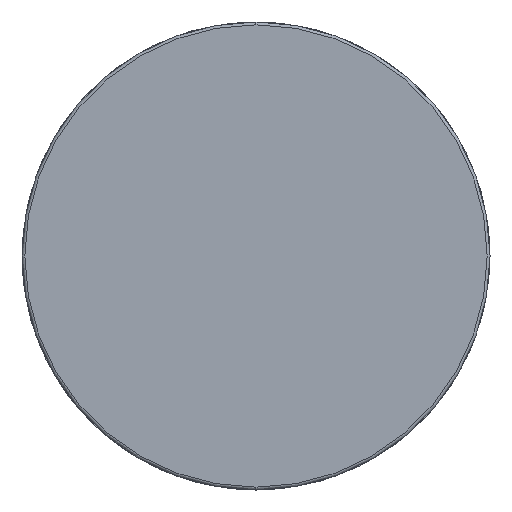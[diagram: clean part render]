
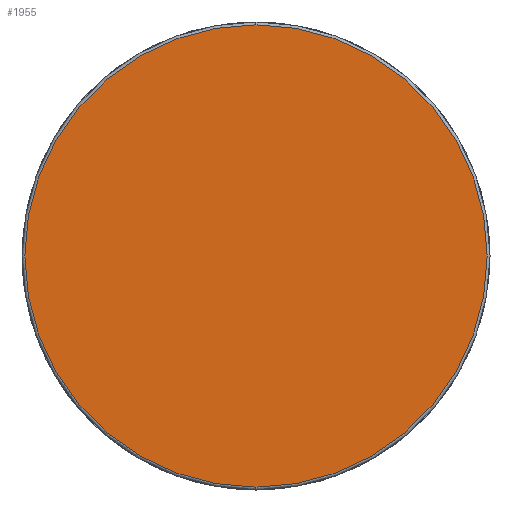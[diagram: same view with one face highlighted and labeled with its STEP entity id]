
A CAD part, left-side view. The second image highlights one B-rep face of the part: STEP entity #1955.
In plain terms, the highlighted planar face has unit normal (-1, 0, 0).
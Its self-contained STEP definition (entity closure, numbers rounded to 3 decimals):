
#34 = DIRECTION ( 'NONE',  ( -1., 0., 0. ) ) ;
#151 = VERTEX_POINT ( 'NONE', #4277 ) ;
#449 = CARTESIAN_POINT ( 'NONE',  ( 0., 0., 0. ) ) ;
#750 = DIRECTION ( 'NONE',  ( 0., 0., -1. ) ) ;
#894 = VERTEX_POINT ( 'NONE', #4530 ) ;
#1131 = CIRCLE ( 'NONE', #4068, 40.5 ) ;
#1200 = DIRECTION ( 'NONE',  ( 0., 0., -1. ) ) ;
#1360 = CIRCLE ( 'NONE', #1806, 40.5 ) ;
#1363 = CARTESIAN_POINT ( 'NONE',  ( 0., 0., 0. ) ) ;
#1436 = CARTESIAN_POINT ( 'NONE',  ( 0., 0., 0. ) ) ;
#1789 = AXIS2_PLACEMENT_3D ( 'NONE', #1436, #4372, #750 ) ;
#1806 = AXIS2_PLACEMENT_3D ( 'NONE', #449, #34, #1200 ) ;
#1955 = ADVANCED_FACE ( 'NONE', ( #2149 ), #4773, .F. ) ;
#2069 = EDGE_CURVE ( 'NONE', #894, #151, #1360, .T. ) ;
#2149 = FACE_OUTER_BOUND ( 'NONE', #3131, .T. ) ;
#2381 = EDGE_CURVE ( 'NONE', #151, #894, #1131, .T. ) ;
#3131 = EDGE_LOOP ( 'NONE', ( #3852, #4652 ) ) ;
#3558 = DIRECTION ( 'NONE',  ( 0., 0., -1. ) ) ;
#3580 = DIRECTION ( 'NONE',  ( -1., 0., 0. ) ) ;
#3852 = ORIENTED_EDGE ( 'NONE', *, *, #2069, .T. ) ;
#4068 = AXIS2_PLACEMENT_3D ( 'NONE', #1363, #3580, #3558 ) ;
#4277 = CARTESIAN_POINT ( 'NONE',  ( 0., 0., 40.5 ) ) ;
#4372 = DIRECTION ( 'NONE',  ( 1., 0., 0. ) ) ;
#4530 = CARTESIAN_POINT ( 'NONE',  ( 0., 0., -40.5 ) ) ;
#4652 = ORIENTED_EDGE ( 'NONE', *, *, #2381, .T. ) ;
#4773 = PLANE ( 'NONE',  #1789 ) ;
